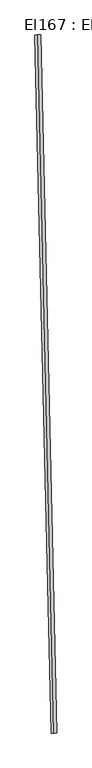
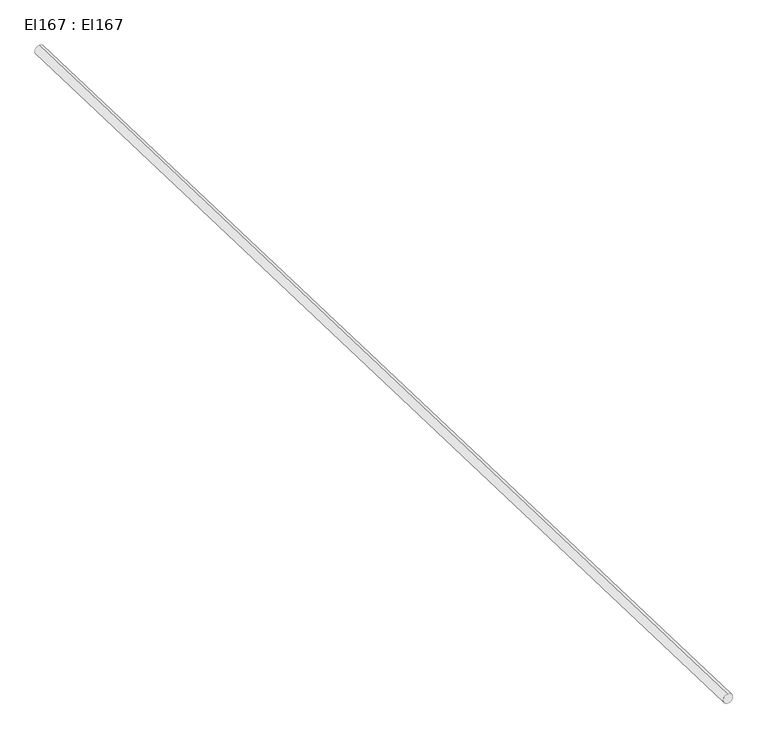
"""IFC4 building model written with IfcOpenShell, lengths in millimetres: cable carrier segment geometry, El167 : El167."""

import ifcopenshell
import ifcopenshell.guid

model = None  # the IFC model being written
_history = None  # IfcOwnerHistory: only IFC2X3 demands one
_inside = {}  # id of a spatial element -> (the spatial element, [elements in it])
_under = {}  # id of a project, library or spatial element -> (it, [spatial elements below it])
_declared = {}  # id of a project -> (the project, [libraries it declares])
_typed = {}  # id of a type object -> (the type object, [elements of that type])
_made_of = {}  # id of a material, layer set ... -> (it, [elements and type objects made of it])


def new_model(schema):
    """Start an empty IFC model of exactly this schema.

    Asked for "IFC4X3", IfcOpenShell would pick the latest addendum, in which some entities
    have other attributes; the version numbers below select the first issue.
    IFC2X3 requires an IfcOwnerHistory on every rooted entity: one is made here for all.
    """
    global model, _history
    if schema == "IFC4X3":
        model = ifcopenshell.file(schema_version=(4, 3, 0, 0))
    else:
        model = ifcopenshell.file(schema=schema)
    _inside.clear()
    _under.clear()
    _declared.clear()
    _typed.clear()
    _made_of.clear()
    _history = None
    if model.schema == "IFC2X3":
        org = make("IfcOrganization", Name="unknown")
        user = make(
            "IfcPersonAndOrganization",
            ThePerson=make("IfcPerson", FamilyName="unknown"),
            TheOrganization=org,
        )
        app = make(
            "IfcApplication",
            ApplicationDeveloper=org,
            Version="unknown",
            ApplicationFullName="unknown",
            ApplicationIdentifier="unknown",
        )
        _history = make(
            "IfcOwnerHistory",
            OwningUser=user,
            OwningApplication=app,
            ChangeAction="ADDED",
            CreationDate=0,
        )
    return model


def make(cls, **values):
    """One entity of the class cls with the attributes given. An attribute that is None is left unset."""
    return model.create_entity(
        cls, **{name: value for name, value in values.items() if value is not None}
    )


def rooted(cls, **values):
    """An entity with a GlobalId (a new one), such as an element, a storey or a relation."""
    return make(cls, GlobalId=ifcopenshell.guid.new(), OwnerHistory=_history, **values)


def si_unit(unit_type, name, prefix=None):
    """IfcSIUnit, for example si_unit("LENGTHUNIT", "METRE", prefix="MILLI")."""
    return make("IfcSIUnit", UnitType=unit_type, Prefix=prefix, Name=name)


def assignment(units):
    """IfcUnitAssignment: the units of a project."""
    return None if units is None else make("IfcUnitAssignment", Units=units)


def point(xyz):
    """IfcCartesianPoint."""
    return None if xyz is None else make("IfcCartesianPoint", Coordinates=xyz)


def direction(xyz):
    """IfcDirection."""
    return None if xyz is None else make("IfcDirection", DirectionRatios=xyz)


def frame(location, z_axis=None, x_axis=None):
    """IfcAxis2Placement3D, a coordinate frame: its origin and axes. An axis left out is left unset."""
    return make(
        "IfcAxis2Placement3D",
        Location=point(location),
        Axis=direction(z_axis),
        RefDirection=direction(x_axis),
    )


def frame_2d(location, x_axis=None):
    """IfcAxis2Placement2D, a coordinate frame in the plane: its origin and x axis."""
    return make(
        "IfcAxis2Placement2D", Location=point(location), RefDirection=direction(x_axis)
    )


def origin():
    """The frame at (0, 0, 0) with its axes left unset."""
    return frame((0.0, 0.0, 0.0))


def place(relative_to, where):
    """IfcLocalPlacement: puts the frame where relative to a parent placement (None: the world)."""
    return make(
        "IfcLocalPlacement", PlacementRelTo=relative_to, RelativePlacement=where
    )


def context(
    kind, dimensions, precision=None, world=None, true_north=None, identifier=None
):
    """IfcGeometricRepresentationContext, for example the 3D "Model" context."""
    return make(
        "IfcGeometricRepresentationContext",
        ContextIdentifier=identifier,
        ContextType=kind,
        CoordinateSpaceDimension=dimensions,
        Precision=precision,
        WorldCoordinateSystem=world,
        TrueNorth=true_north,
    )


def project(units=None, contexts=None):
    """IfcProject with its units and contexts."""
    return rooted(
        "IfcProject",
        Name="project",
        RepresentationContexts=contexts,
        UnitsInContext=assignment(units),
    )


def spatial(cls, under=None, at=None, **own):
    """A site, building, storey or space (cls), placed at a placement, below another one or the project."""
    s = rooted(cls, ObjectPlacement=at, **own)
    if under is not None:
        _under.setdefault(under.id(), (under, []))[1].append(s)
    return s


def circle_curve(where, radius):
    """IfcCircle in the frame where."""
    return make("IfcCircle", Position=where, Radius=radius)


def trimmed(basis, trim1, trim2, sense, master):
    """IfcTrimmedCurve: the piece of a basis curve between two trims."""
    return make(
        "IfcTrimmedCurve",
        BasisCurve=basis,
        Trim1=trim1,
        Trim2=trim2,
        SenseAgreement=sense,
        MasterRepresentation=master,
    )


def segment(curve, same_sense, transition):
    """IfcCompositeCurveSegment."""
    return make(
        "IfcCompositeCurveSegment",
        Transition=transition,
        SameSense=same_sense,
        ParentCurve=curve,
    )


def composite_curve(segments, self_intersect=None):
    """IfcCompositeCurve: segments joined end to end."""
    return make("IfcCompositeCurve", Segments=segments, SelfIntersect=self_intersect)


def outline(outer, holes=None, kind="AREA"):
    """IfcArbitraryClosedProfileDef: a profile drawn as a closed curve; with holes, ...WithVoids."""
    if holes is None:
        return make("IfcArbitraryClosedProfileDef", ProfileType=kind, OuterCurve=outer)
    return make(
        "IfcArbitraryProfileDefWithVoids",
        ProfileType=kind,
        OuterCurve=outer,
        InnerCurves=holes,
    )


def extrude(swept, where, along, depth):
    """IfcExtrudedAreaSolid: the profile swept, set in the frame where, extruded along a direction by depth."""
    return make(
        "IfcExtrudedAreaSolid",
        SweptArea=swept,
        Position=where,
        ExtrudedDirection=direction(along),
        Depth=depth,
    )


def shape(context_of_items, identifier, shape_type, items):
    """IfcShapeRepresentation: the items that make up one representation, for example the "Body"."""
    return make(
        "IfcShapeRepresentation",
        ContextOfItems=context_of_items,
        RepresentationIdentifier=identifier,
        RepresentationType=shape_type,
        Items=items,
    )


def source(mapping_origin, context_of_items, identifier, shape_type, items):
    """IfcRepresentationMap: a shape defined once, which mapped items show again and again."""
    return make(
        "IfcRepresentationMap",
        MappingOrigin=mapping_origin,
        MappedRepresentation=shape(context_of_items, identifier, shape_type, items),
    )


def transform(
    local_origin,
    x_axis=None,
    y_axis=None,
    z_axis=None,
    scale=None,
    scale2=None,
    scale3=None,
    uniform=True,
):
    """IfcCartesianTransformationOperator3D, or its non-uniform kind. x_axis, y_axis, z_axis: its Axis1, 2, 3."""
    if uniform:
        return make(
            "IfcCartesianTransformationOperator3D",
            Axis1=direction(x_axis),
            Axis2=direction(y_axis),
            LocalOrigin=point(local_origin),
            Scale=scale,
            Axis3=direction(z_axis),
        )
    return make(
        "IfcCartesianTransformationOperator3DnonUniform",
        Axis1=direction(x_axis),
        Axis2=direction(y_axis),
        LocalOrigin=point(local_origin),
        Scale=scale,
        Axis3=direction(z_axis),
        Scale2=scale2,
        Scale3=scale3,
    )


def mapped(mapping_source, mapping_target):
    """IfcMappedItem: shows the shape of a source again, moved by a transform."""
    return make(
        "IfcMappedItem", MappingSource=mapping_source, MappingTarget=mapping_target
    )


def made_of(thing, what):
    """Note that an element or type object is made of a material, layer set ...; save() writes the relation."""
    if what is not None:
        _made_of.setdefault(what.id(), (what, []))[1].append(thing)
    return thing


def element(
    cls,
    number,
    at=None,
    inside=None,
    cuts=None,
    type_object=None,
    material=None,
    context=None,
    identifier="Body",
    shape_type=None,
    held_by="IfcProductDefinitionShape",
    body=None,
    shapes=None,
    **own,
):
    """One element of the class cls, such as IfcWall. Its Tag is "e" and its number.

    at: its placement. inside: the storey or other place that contains it. cuts: it is an
    opening in that element (IfcRelVoidsElement). A single representation is given by context,
    identifier, shape_type and body (its items); several are given by shapes. held_by: the class
    of the entity that holds the representations. save() writes the other relations.
    """
    e = rooted(cls, Tag="e%d" % number, ObjectPlacement=at, **own)
    if body is not None:
        shapes = [shape(context, identifier, shape_type, body)]
    if shapes is not None:
        e.Representation = make(held_by, Representations=shapes)
    if inside is not None:
        _inside.setdefault(inside.id(), (inside, []))[1].append(e)
    if cuts is not None:
        rooted(
            "IfcRelVoidsElement", RelatingBuildingElement=cuts, RelatedOpeningElement=e
        )
    if type_object is not None:
        _typed.setdefault(type_object.id(), (type_object, []))[1].append(e)
    return made_of(e, material)


def aggregate(whole, parts):
    """IfcRelAggregates: a whole, such as a stair, and the parts it consists of."""
    return rooted("IfcRelAggregates", RelatingObject=whole, RelatedObjects=parts)


def save(model, path):
    """Write the relations noted so far, then the file.

    IfcRelAggregates (storeys below a building ...), IfcRelContainedInSpatialStructure (elements
    in a storey), IfcRelDefinesByType, IfcRelAssociatesMaterial and IfcRelDeclares: one each for
    every whole, place, type object, material and project.
    """
    for whole, parts in _under.values():
        aggregate(whole, parts)
    for where, things in _inside.values():
        rooted(
            "IfcRelContainedInSpatialStructure",
            RelatedElements=things,
            RelatingStructure=where,
        )
    for kind, things in _typed.values():
        rooted("IfcRelDefinesByType", RelatedObjects=things, RelatingType=kind)
    for what, things in _made_of.values():
        rooted("IfcRelAssociatesMaterial", RelatedObjects=things, RelatingMaterial=what)
    for by, libraries in _declared.values():
        rooted("IfcRelDeclares", RelatingContext=by, RelatedDefinitions=libraries)
    model.write(path)


def el167_el167_f0bc766a(model_context):
    return source(origin(), model_context, "Body", "SweptSolid", [
        extrude(outline(composite_curve([segment(trimmed(circle_curve(frame_2d((0.0, -9.5)), 9.5), [point((0.0, -19.0))], [point((0.0, 0.0))], False, "CARTESIAN"), True, "CONTINUOUS"), segment(trimmed(circle_curve(frame_2d((0.0, -9.5)), 9.5), [point((0.0, 0.0))], [point((0.0, -19.0))], False, "CARTESIAN"), True, "CONTINUOUS")], self_intersect=False)), frame((18011.8511103, 10123.1318562, 2959.5), z_axis=(-0.023070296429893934, 0.9997338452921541, 0.0), x_axis=(-0.9997338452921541, -0.023070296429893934, 0.0)), (0.0, 0.0, 1.0), 2223.73),
    ])


if __name__ == "__main__":
    model = new_model("IFC4")
    model_context = context("Model", 3, world=origin())
    ifc_project = project(units=[si_unit("LENGTHUNIT", "METRE", prefix="MILLI")], contexts=[model_context])
    site = spatial("IfcSite", under=ifc_project)
    building = spatial("IfcBuilding", under=site)
    placement = place(None, origin())
    el167_el167_shape = el167_el167_f0bc766a(model_context)
    element("IfcCableCarrierSegment", 1, ObjectType="El167 : El167", at=placement, inside=building, context=model_context, shape_type="MappedRepresentation", body=[
        mapped(el167_el167_shape, transform((0.0, 0.0, 0.0), x_axis=(1.0, 0.0, 0.0), y_axis=(0.0, 1.0, 0.0), z_axis=(0.0, 0.0, 1.0))),
    ])
    save(model, "model.ifc")
